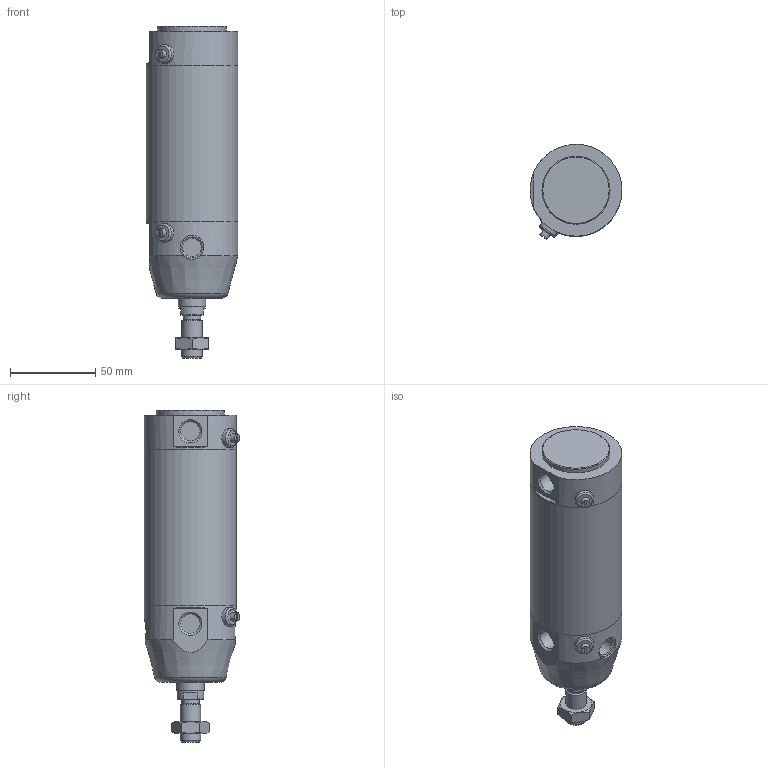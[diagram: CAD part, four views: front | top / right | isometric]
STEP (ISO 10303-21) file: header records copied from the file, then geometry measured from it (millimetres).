
FILE_DESCRIPTION(/* description */ (''),/* implementation_level */ '2;1');
FILE_NAME(/* name */ 'I:\Area Tecnica\Documenti\A-Manieri\_Inventor\12X\12X#E_###_####_#_#\12XBE_050_0050_#_#.stp',/* time_stamp */ '2015-05-08T13:57:48+02:00',/* author */ ('maniean1'),/* organization */ ('Pneumax S.p.A.'),/* preprocessor_version */ 'ST-DEVELOPER v15.2',/* originating_system */ 'Autodesk Inventor 2014',/* authorisation */ '');
FILE_SCHEMA (('AUTOMOTIVE_DESIGN { 1 0 10303 214 3 1 1 }'));
Length unit declared in the file: millimetre
Products named in the file (6): C1250_619-0050; 12X50_623; S12X50_0050; 12X_50_11; 12X50_612; 12XBE_050_0050_#_#
Bounding box: 54 x 55.88 x 195 mm (x, y, z)
Volume: 265799.5 mm3; surface area: 70750.2 mm2
Topology: 5 solids, 5 shells, 83 faces, 174 edges, 112 vertices
Faces by surface type: plane 45, cylinder 22, cone 13, torus 3
Full cylindrical faces by diameter (mm): 5 x2, 10.2 x1, 10.9 x2, 11 x2, 11.4 x2, 12 x2, 14 x1, 14.1 x2, 15.6 x1, 16 x1, 40 x1, 50 x2, 54 x3
Entity records: 2203 total; most frequent: CARTESIAN_POINT 508, DIRECTION 359, ORIENTED_EDGE 254, AXIS2_PLACEMENT_3D 161, EDGE_LOOP 136, EDGE_CURVE 127, VERTEX_POINT 101, ADVANCED_FACE 83
